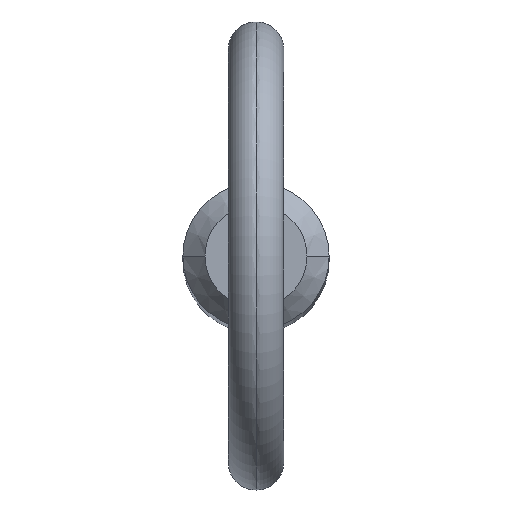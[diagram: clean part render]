
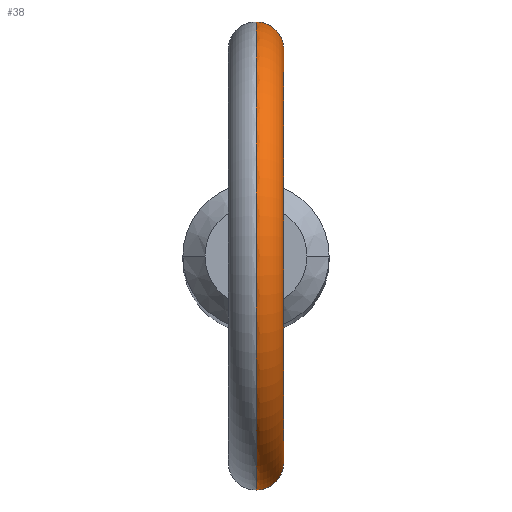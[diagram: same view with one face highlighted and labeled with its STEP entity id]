
A CAD part, top view. The second image highlights one B-rep face of the part: STEP entity #38.
In plain terms, the highlighted toroidal (fillet/blend) face has major radius 11.2 mm and minor radius 1.5 mm.
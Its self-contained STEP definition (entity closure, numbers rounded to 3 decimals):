
#19 = EDGE_LOOP ( 'NONE', ( #297, #174, #489, #375 ) ) ;
#20 = CARTESIAN_POINT ( 'NONE',  ( 0., 0., 121.9 ) ) ;
#22 = VERTEX_POINT ( 'NONE', #359 ) ;
#29 = CARTESIAN_POINT ( 'NONE',  ( 0.769, 3.894, 112.801 ) ) ;
#37 = CARTESIAN_POINT ( 'NONE',  ( 1.471, -3.682, 110.994 ) ) ;
#38 = ADVANCED_FACE ( 'NONE', ( #274 ), #451, .T. ) ;
#40 = DIRECTION ( 'NONE',  ( 0., 0., -1. ) ) ;
#45 = B_SPLINE_CURVE_WITH_KNOTS ( 'NONE', 3,
 ( #189, #449, #413, #76, #342, #191, #106, #414, #376, #77, #152, #454, #277, #314, #379, #37, #285, #246, #423, #154, #322, #507, #419, #424, #317, #118 ),
 .UNSPECIFIED., .F., .F.,
 ( 4, 2, 2, 2, 2, 2, 2, 2, 2, 2, 2, 2, 4 ),
 ( 0.004, 0.005, 0.005, 0.005, 0.006, 0.006, 0.007, 0.007, 0.007, 0.008, 0.008, 0.008, 0.009 ),
 .UNSPECIFIED. ) ;
#72 = CARTESIAN_POINT ( 'NONE',  ( 0.206, 3.965, 113.047 ) ) ;
#76 = CARTESIAN_POINT ( 'NONE',  ( 0.404, -3.946, 112.982 ) ) ;
#77 = CARTESIAN_POINT ( 'NONE',  ( 1.404, -3.708, 111.901 ) ) ;
#79 = CARTESIAN_POINT ( 'NONE',  ( 1.47, 3.682, 110.992 ) ) ;
#102 = DIRECTION ( 'NONE',  ( 1., 0., 0. ) ) ;
#106 = CARTESIAN_POINT ( 'NONE',  ( 0.925, -3.858, 112.668 ) ) ;
#110 = CARTESIAN_POINT ( 'NONE',  ( 0.927, 3.858, 112.667 ) ) ;
#118 = CARTESIAN_POINT ( 'NONE',  ( 0., -3.965, 109.835 ) ) ;
#125 = CARTESIAN_POINT ( 'NONE',  ( 0., 0., 121.9 ) ) ;
#138 = VERTEX_POINT ( 'NONE', #325 ) ;
#140 = DIRECTION ( 'NONE',  ( 0., 0., -1. ) ) ;
#147 = CARTESIAN_POINT ( 'NONE',  ( 0., 3.965, 113.047 ) ) ;
#152 = CARTESIAN_POINT ( 'NONE',  ( 1.434, -3.697, 111.805 ) ) ;
#153 = CARTESIAN_POINT ( 'NONE',  ( 0.691, 3.905, 109.989 ) ) ;
#154 = CARTESIAN_POINT ( 'NONE',  ( 1.028, -3.83, 110.215 ) ) ;
#170 = VERTEX_POINT ( 'NONE', #393 ) ;
#174 = ORIENTED_EDGE ( 'NONE', *, *, #313, .T. ) ;
#187 = CARTESIAN_POINT ( 'NONE',  ( 1.503, 3.669, 111.298 ) ) ;
#189 = CARTESIAN_POINT ( 'NONE',  ( 0., -3.965, 113.047 ) ) ;
#191 = CARTESIAN_POINT ( 'NONE',  ( 0.77, -3.894, 112.8 ) ) ;
#217 = CIRCLE ( 'NONE', #464, 12.7 ) ;
#230 = CARTESIAN_POINT ( 'NONE',  ( 1.488, 3.675, 111.605 ) ) ;
#231 = CARTESIAN_POINT ( 'NONE',  ( 1.499, 3.671, 111.194 ) ) ;
#232 = CARTESIAN_POINT ( 'NONE',  ( 0., 3.965, 109.835 ) ) ;
#239 = CARTESIAN_POINT ( 'NONE',  ( 0.204, 3.965, 109.835 ) ) ;
#246 = CARTESIAN_POINT ( 'NONE',  ( 1.346, -3.73, 110.608 ) ) ;
#259 = AXIS2_PLACEMENT_3D ( 'NONE', #125, #389, #40 ) ;
#271 = AXIS2_PLACEMENT_3D ( 'NONE', #467, #350, #386 ) ;
#272 = CARTESIAN_POINT ( 'NONE',  ( 1.344, 3.731, 110.603 ) ) ;
#274 = FACE_OUTER_BOUND ( 'NONE', #19, .T. ) ;
#276 = CARTESIAN_POINT ( 'NONE',  ( 0.41, 3.948, 109.874 ) ) ;
#277 = CARTESIAN_POINT ( 'NONE',  ( 1.493, -3.673, 111.504 ) ) ;
#285 = CARTESIAN_POINT ( 'NONE',  ( 1.447, -3.692, 110.893 ) ) ;
#297 = ORIENTED_EDGE ( 'NONE', *, *, #335, .F. ) ;
#310 = CARTESIAN_POINT ( 'NONE',  ( 0.411, 3.948, 112.991 ) ) ;
#312 = CARTESIAN_POINT ( 'NONE',  ( 1.185, 3.786, 112.36 ) ) ;
#313 = EDGE_CURVE ( 'NONE', #138, #170, #217, .T. ) ;
#314 = CARTESIAN_POINT ( 'NONE',  ( 1.503, -3.669, 111.299 ) ) ;
#315 = CARTESIAN_POINT ( 'NONE',  ( 1.447, 3.692, 110.893 ) ) ;
#317 = CARTESIAN_POINT ( 'NONE',  ( 0.205, -3.965, 109.835 ) ) ;
#322 = CARTESIAN_POINT ( 'NONE',  ( 0.949, -3.851, 110.149 ) ) ;
#325 = CARTESIAN_POINT ( 'NONE',  ( 0., 3.965, 109.835 ) ) ;
#335 = EDGE_CURVE ( 'NONE', #138, #362, #474, .T. ) ;
#340 = EDGE_CURVE ( 'NONE', #22, #170, #45, .T. ) ;
#341 = CARTESIAN_POINT ( 'NONE',  ( 0., 3.965, 113.047 ) ) ;
#342 = CARTESIAN_POINT ( 'NONE',  ( 0.498, -3.935, 112.944 ) ) ;
#346 = CARTESIAN_POINT ( 'NONE',  ( 1.026, 3.831, 110.213 ) ) ;
#350 = DIRECTION ( 'NONE',  ( 1., 0., 0. ) ) ;
#352 = EDGE_CURVE ( 'NONE', #362, #22, #512, .T. ) ;
#359 = CARTESIAN_POINT ( 'NONE',  ( 0., -3.965, 113.047 ) ) ;
#362 = VERTEX_POINT ( 'NONE', #147 ) ;
#375 = ORIENTED_EDGE ( 'NONE', *, *, #352, .F. ) ;
#376 = CARTESIAN_POINT ( 'NONE',  ( 1.291, -3.75, 112.183 ) ) ;
#379 = CARTESIAN_POINT ( 'NONE',  ( 1.499, -3.671, 111.197 ) ) ;
#386 = DIRECTION ( 'NONE',  ( 0., 0., -1. ) ) ;
#389 = DIRECTION ( 'NONE',  ( 1., 0., 0. ) ) ;
#393 = CARTESIAN_POINT ( 'NONE',  ( 0., -3.965, 109.835 ) ) ;
#409 = CARTESIAN_POINT ( 'NONE',  ( 0.782, 3.888, 110.037 ) ) ;
#412 = CARTESIAN_POINT ( 'NONE',  ( 1.441, 3.695, 111.808 ) ) ;
#413 = CARTESIAN_POINT ( 'NONE',  ( 0.205, -3.961, 113.034 ) ) ;
#414 = CARTESIAN_POINT ( 'NONE',  ( 1.186, -3.786, 112.359 ) ) ;
#418 = CARTESIAN_POINT ( 'NONE',  ( 1.236, 3.77, 110.429 ) ) ;
#419 = CARTESIAN_POINT ( 'NONE',  ( 0.693, -3.905, 109.99 ) ) ;
#423 = CARTESIAN_POINT ( 'NONE',  ( 1.237, -3.77, 110.431 ) ) ;
#424 = CARTESIAN_POINT ( 'NONE',  ( 0.409, -3.948, 109.874 ) ) ;
#449 = CARTESIAN_POINT ( 'NONE',  ( 0.102, -3.965, 113.047 ) ) ;
#451 = TOROIDAL_SURFACE ( 'NONE', #259, 11.2, 1.5 ) ;
#454 = CARTESIAN_POINT ( 'NONE',  ( 1.479, -3.679, 111.607 ) ) ;
#464 = AXIS2_PLACEMENT_3D ( 'NONE', #20, #102, #140 ) ;
#467 = CARTESIAN_POINT ( 'NONE',  ( 0., 0., 121.9 ) ) ;
#474 = B_SPLINE_CURVE_WITH_KNOTS ( 'NONE', 3,
 ( #232, #239, #276, #153, #409, #501, #346, #418, #272, #315, #79, #231, #187, #230, #412, #494, #312, #110, #29, #310, #72, #341 ),
 .UNSPECIFIED., .F., .F.,
 ( 4, 2, 2, 2, 2, 2, 2, 2, 2, 2, 4 ),
 ( 0.001, 0.001, 0.002, 0.002, 0.003, 0.003, 0.003, 0.004, 0.004, 0.005, 0.006 ),
 .UNSPECIFIED. ) ;
#489 = ORIENTED_EDGE ( 'NONE', *, *, #340, .F. ) ;
#494 = CARTESIAN_POINT ( 'NONE',  ( 1.291, 3.75, 112.184 ) ) ;
#501 = CARTESIAN_POINT ( 'NONE',  ( 0.949, 3.851, 110.149 ) ) ;
#507 = CARTESIAN_POINT ( 'NONE',  ( 0.782, -3.888, 110.037 ) ) ;
#512 = CIRCLE ( 'NONE', #271, 9.7 ) ;
